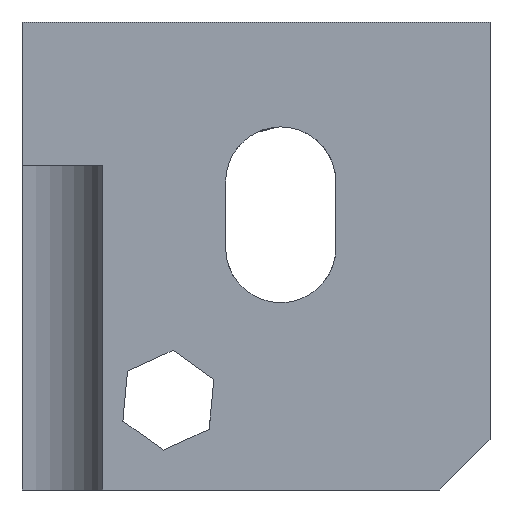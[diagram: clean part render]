
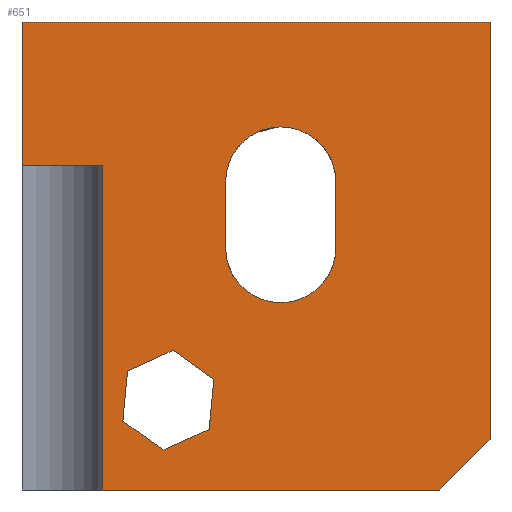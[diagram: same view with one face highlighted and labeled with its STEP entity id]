
A CAD part, front view. The second image highlights one B-rep face of the part: STEP entity #651.
In plain terms, the highlighted planar face has unit normal (0, -1, 0).
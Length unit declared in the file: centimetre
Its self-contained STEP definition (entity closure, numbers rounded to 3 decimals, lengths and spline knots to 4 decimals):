
#18 = VERTEX_POINT ( 'NONE', #916 ) ;
#38 = CARTESIAN_POINT ( 'NONE',  ( 552.866, 0., 657.9745 ) ) ;
#40 = EDGE_CURVE ( 'NONE', #322, #474, #801, .T. ) ;
#43 = CARTESIAN_POINT ( 'NONE',  ( 552.866, 0., 775.8594 ) ) ;
#48 = ORIENTED_EDGE ( 'NONE', *, *, #333, .T. ) ;
#50 = CARTESIAN_POINT ( 'NONE',  ( 225.4824, 0., 253.8451 ) ) ;
#60 = CARTESIAN_POINT ( 'NONE',  ( 891.9734, 0., 0. ) ) ;
#79 = LINE ( 'NONE', #863, #1353 ) ;
#98 = CARTESIAN_POINT ( 'NONE',  ( 399.8732, 0., 129.8895 ) ) ;
#111 = AXIS2_PLACEMENT_3D ( 'NONE', #152, #1071, #250 ) ;
#116 = EDGE_CURVE ( 'NONE', #183, #18, #1237, .T. ) ;
#122 = LINE ( 'NONE', #1050, #799 ) ;
#124 = DIRECTION ( 'NONE',  ( 0., 0., -1. ) ) ;
#129 = DIRECTION ( 'NONE',  ( 0., 1., 0. ) ) ;
#141 = DIRECTION ( 'NONE',  ( 0., 0., -1. ) ) ;
#143 = LINE ( 'NONE', #50, #777 ) ;
#144 = VERTEX_POINT ( 'NONE', #232 ) ;
#149 = LINE ( 'NONE', #1386, #700 ) ;
#150 = EDGE_CURVE ( 'NONE', #1075, #546, #122, .T. ) ;
#152 = CARTESIAN_POINT ( 'NONE',  ( 0., 0., 1000. ) ) ;
#167 = EDGE_CURVE ( 'NONE', #278, #322, #1269, .T. ) ;
#177 = VERTEX_POINT ( 'NONE', #701 ) ;
#183 = VERTEX_POINT ( 'NONE', #262 ) ;
#214 = DIRECTION ( 'NONE',  ( 0., 1., 0. ) ) ;
#215 = ORIENTED_EDGE ( 'NONE', *, *, #870, .F. ) ;
#217 = CARTESIAN_POINT ( 'NONE',  ( 172.9813, 0., 0. ) ) ;
#227 = VECTOR ( 'NONE', #1304, 100. ) ;
#232 = CARTESIAN_POINT ( 'NONE',  ( 434.9812, 0., 657.9745 ) ) ;
#237 = DIRECTION ( 'NONE',  ( 1., 0., 0. ) ) ;
#250 = DIRECTION ( 'NONE',  ( 0., 0., 1. ) ) ;
#262 = CARTESIAN_POINT ( 'NONE',  ( 670.7509, 0., 518.1371 ) ) ;
#265 = ORIENTED_EDGE ( 'NONE', *, *, #823, .F. ) ;
#278 = VERTEX_POINT ( 'NONE', #1436 ) ;
#283 = CARTESIAN_POINT ( 'NONE',  ( 670.7509, 0., 657.9745 ) ) ;
#286 = ORIENTED_EDGE ( 'NONE', *, *, #488, .T. ) ;
#289 = ORIENTED_EDGE ( 'NONE', *, *, #150, .F. ) ;
#290 = CARTESIAN_POINT ( 'NONE',  ( 302.6012, 0., 85.365 ) ) ;
#291 = CARTESIAN_POINT ( 'NONE',  ( 0., 0., 1000. ) ) ;
#319 = CIRCLE ( 'NONE', #486, 117.8849 ) ;
#322 = VERTEX_POINT ( 'NONE', #290 ) ;
#324 = VECTOR ( 'NONE', #898, 100. ) ;
#333 = EDGE_CURVE ( 'NONE', #1305, #594, #79, .T. ) ;
#371 = DIRECTION ( 'NONE',  ( -0.094, 0., -0.996 ) ) ;
#375 = VECTOR ( 'NONE', #237, 100. ) ;
#383 = CARTESIAN_POINT ( 'NONE',  ( 0., 0., 693.7999 ) ) ;
#391 = ORIENTED_EDGE ( 'NONE', *, *, #116, .T. ) ;
#393 = DIRECTION ( 'NONE',  ( -1., 0., 0. ) ) ;
#396 = CARTESIAN_POINT ( 'NONE',  ( 172.9813, 0., 693.7999 ) ) ;
#416 = EDGE_CURVE ( 'NONE', #544, #1305, #149, .T. ) ;
#430 = ORIENTED_EDGE ( 'NONE', *, *, #416, .T. ) ;
#442 = CARTESIAN_POINT ( 'NONE',  ( 552.866, 0., 657.9745 ) ) ;
#446 = LINE ( 'NONE', #1334, #467 ) ;
#452 = EDGE_CURVE ( 'NONE', #1404, #707, #653, .T. ) ;
#459 = CARTESIAN_POINT ( 'NONE',  ( 552.866, 0., 518.1371 ) ) ;
#460 = VECTOR ( 'NONE', #920, 100. ) ;
#467 = VECTOR ( 'NONE', #796, 100. ) ;
#474 = VERTEX_POINT ( 'NONE', #1015 ) ;
#486 = AXIS2_PLACEMENT_3D ( 'NONE', #442, #214, #699 ) ;
#488 = EDGE_CURVE ( 'NONE', #144, #1404, #319, .T. ) ;
#515 = EDGE_LOOP ( 'NONE', ( #265, #959, #881, #1374, #954, #215 ) ) ;
#526 = ORIENTED_EDGE ( 'NONE', *, *, #879, .F. ) ;
#538 = VECTOR ( 'NONE', #1145, 100. ) ;
#544 = VERTEX_POINT ( 'NONE', #396 ) ;
#546 = VERTEX_POINT ( 'NONE', #955 ) ;
#556 = DIRECTION ( 'NONE',  ( 0., 0., -1. ) ) ;
#561 = DIRECTION ( 'NONE',  ( 0., 0., 1. ) ) ;
#585 = VERTEX_POINT ( 'NONE', #383 ) ;
#594 = VERTEX_POINT ( 'NONE', #60 ) ;
#607 = CARTESIAN_POINT ( 'NONE',  ( 215.4058, 0., 147.3428 ) ) ;
#639 = VECTOR ( 'NONE', #556, 100. ) ;
#645 = VERTEX_POINT ( 'NONE', #1175 ) ;
#651 = ADVANCED_FACE ( 'NONE', ( #738, #715, #1163 ), #851, .F. ) ;
#653 = CIRCLE ( 'NONE', #852, 117.8849 ) ;
#676 = LINE ( 'NONE', #1134, #1388 ) ;
#699 = DIRECTION ( 'NONE',  ( 0., 0., 1. ) ) ;
#700 = VECTOR ( 'NONE', #141, 100. ) ;
#701 = CARTESIAN_POINT ( 'NONE',  ( 322.7545, 0., 298.3696 ) ) ;
#707 = VERTEX_POINT ( 'NONE', #283 ) ;
#708 = EDGE_CURVE ( 'NONE', #1449, #278, #143, .T. ) ;
#715 = FACE_BOUND ( 'NONE', #515, .T. ) ;
#726 = ORIENTED_EDGE ( 'NONE', *, *, #1292, .T. ) ;
#729 = AXIS2_PLACEMENT_3D ( 'NONE', #459, #129, #561 ) ;
#730 = CARTESIAN_POINT ( 'NONE',  ( 0., 0., 693.7999 ) ) ;
#731 = VECTOR ( 'NONE', #1376, 100. ) ;
#738 = FACE_BOUND ( 'NONE', #1052, .T. ) ;
#748 = CARTESIAN_POINT ( 'NONE',  ( 1000., 0., 108.0266 ) ) ;
#777 = VECTOR ( 'NONE', #371, 100. ) ;
#780 = DIRECTION ( 'NONE',  ( 0., 0., 1. ) ) ;
#796 = DIRECTION ( 'NONE',  ( 0., 0., 1. ) ) ;
#799 = VECTOR ( 'NONE', #1249, 100. ) ;
#801 = LINE ( 'NONE', #1351, #460 ) ;
#804 = LINE ( 'NONE', #98, #324 ) ;
#819 = EDGE_CURVE ( 'NONE', #594, #546, #938, .T. ) ;
#823 = EDGE_CURVE ( 'NONE', #645, #177, #977, .T. ) ;
#834 = ORIENTED_EDGE ( 'NONE', *, *, #1399, .F. ) ;
#845 = ORIENTED_EDGE ( 'NONE', *, *, #819, .T. ) ;
#851 = PLANE ( 'NONE',  #111 ) ;
#852 = AXIS2_PLACEMENT_3D ( 'NONE', #38, #1368, #780 ) ;
#863 = CARTESIAN_POINT ( 'NONE',  ( 0., 0., 0. ) ) ;
#864 = LINE ( 'NONE', #1246, #227 ) ;
#870 = EDGE_CURVE ( 'NONE', #177, #1449, #864, .T. ) ;
#879 = EDGE_CURVE ( 'NONE', #1159, #1075, #1152, .T. ) ;
#881 = ORIENTED_EDGE ( 'NONE', *, *, #40, .F. ) ;
#888 = CARTESIAN_POINT ( 'NONE',  ( 0., 0., 1000. ) ) ;
#898 = DIRECTION ( 'NONE',  ( 0.094, 0., 0.996 ) ) ;
#910 = LINE ( 'NONE', #1133, #639 ) ;
#916 = CARTESIAN_POINT ( 'NONE',  ( 434.9812, 0., 518.1371 ) ) ;
#920 = DIRECTION ( 'NONE',  ( 0.909, 0., 0.416 ) ) ;
#930 = DIRECTION ( 'NONE',  ( 0.707, 0., 0.707 ) ) ;
#938 = LINE ( 'NONE', #748, #1355 ) ;
#954 = ORIENTED_EDGE ( 'NONE', *, *, #708, .F. ) ;
#955 = CARTESIAN_POINT ( 'NONE',  ( 1000., 0., 108.0266 ) ) ;
#959 = ORIENTED_EDGE ( 'NONE', *, *, #1273, .F. ) ;
#977 = LINE ( 'NONE', #1160, #731 ) ;
#1015 = CARTESIAN_POINT ( 'NONE',  ( 399.8732, 0., 129.8895 ) ) ;
#1050 = CARTESIAN_POINT ( 'NONE',  ( 1000., 0., 1000. ) ) ;
#1052 = EDGE_LOOP ( 'NONE', ( #1053, #391, #726, #286, #1296 ) ) ;
#1053 = ORIENTED_EDGE ( 'NONE', *, *, #1232, .T. ) ;
#1071 = DIRECTION ( 'NONE',  ( 0., 1., 0. ) ) ;
#1072 = LINE ( 'NONE', #730, #1439 ) ;
#1073 = EDGE_CURVE ( 'NONE', #1159, #585, #910, .T. ) ;
#1075 = VERTEX_POINT ( 'NONE', #1126 ) ;
#1126 = CARTESIAN_POINT ( 'NONE',  ( 1000., 0., 1000. ) ) ;
#1133 = CARTESIAN_POINT ( 'NONE',  ( 0., 0., 1000. ) ) ;
#1134 = CARTESIAN_POINT ( 'NONE',  ( 670.7509, 0., 657.9745 ) ) ;
#1145 = DIRECTION ( 'NONE',  ( 0.815, 0., -0.579 ) ) ;
#1148 = EDGE_LOOP ( 'NONE', ( #834, #430, #48, #845, #289, #526, #1437 ) ) ;
#1152 = LINE ( 'NONE', #291, #375 ) ;
#1159 = VERTEX_POINT ( 'NONE', #888 ) ;
#1160 = CARTESIAN_POINT ( 'NONE',  ( 409.9498, 0., 236.3918 ) ) ;
#1163 = FACE_OUTER_BOUND ( 'NONE', #1148, .T. ) ;
#1175 = CARTESIAN_POINT ( 'NONE',  ( 409.9498, 0., 236.3918 ) ) ;
#1232 = EDGE_CURVE ( 'NONE', #707, #183, #676, .T. ) ;
#1237 = CIRCLE ( 'NONE', #729, 117.8849 ) ;
#1246 = CARTESIAN_POINT ( 'NONE',  ( 322.7545, 0., 298.3696 ) ) ;
#1249 = DIRECTION ( 'NONE',  ( 0., 0., -1. ) ) ;
#1269 = LINE ( 'NONE', #607, #538 ) ;
#1273 = EDGE_CURVE ( 'NONE', #474, #645, #804, .T. ) ;
#1292 = EDGE_CURVE ( 'NONE', #18, #144, #446, .T. ) ;
#1294 = CARTESIAN_POINT ( 'NONE',  ( 225.4824, 0., 253.8451 ) ) ;
#1296 = ORIENTED_EDGE ( 'NONE', *, *, #452, .T. ) ;
#1304 = DIRECTION ( 'NONE',  ( -0.909, 0., -0.416 ) ) ;
#1305 = VERTEX_POINT ( 'NONE', #217 ) ;
#1318 = DIRECTION ( 'NONE',  ( 1., 0., 0. ) ) ;
#1334 = CARTESIAN_POINT ( 'NONE',  ( 434.9812, 0., 518.1371 ) ) ;
#1351 = CARTESIAN_POINT ( 'NONE',  ( 302.6012, 0., 85.365 ) ) ;
#1353 = VECTOR ( 'NONE', #1318, 100. ) ;
#1355 = VECTOR ( 'NONE', #930, 100. ) ;
#1368 = DIRECTION ( 'NONE',  ( 0., 1., 0. ) ) ;
#1374 = ORIENTED_EDGE ( 'NONE', *, *, #167, .F. ) ;
#1376 = DIRECTION ( 'NONE',  ( -0.815, 0., 0.579 ) ) ;
#1386 = CARTESIAN_POINT ( 'NONE',  ( 172.9813, 0., 693.7999 ) ) ;
#1388 = VECTOR ( 'NONE', #124, 100. ) ;
#1399 = EDGE_CURVE ( 'NONE', #544, #585, #1072, .T. ) ;
#1404 = VERTEX_POINT ( 'NONE', #43 ) ;
#1436 = CARTESIAN_POINT ( 'NONE',  ( 215.4058, 0., 147.3428 ) ) ;
#1437 = ORIENTED_EDGE ( 'NONE', *, *, #1073, .T. ) ;
#1439 = VECTOR ( 'NONE', #393, 100. ) ;
#1449 = VERTEX_POINT ( 'NONE', #1294 ) ;
